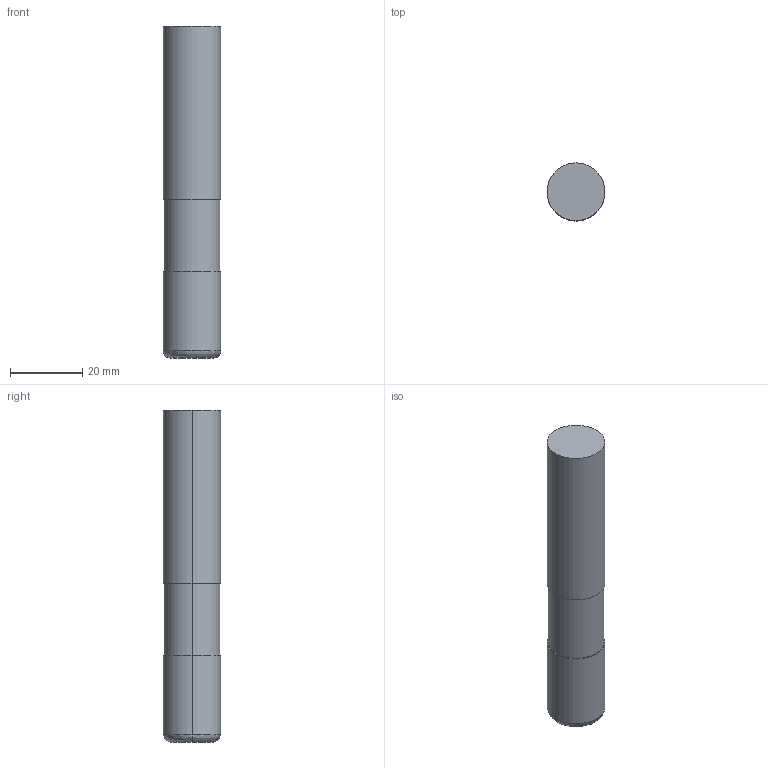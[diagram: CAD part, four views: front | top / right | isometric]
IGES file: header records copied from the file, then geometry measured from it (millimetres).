
Start section: 3D InterOp IGES (v. 2020 1.0.1), Spatial Corp. Copyright (c) 1999-2017.
Global section: file name: WZF17576_16_2.igs; native system: Spatial Corp.; preprocessor: 3D InterOp GENERIC/IGES 3.0; author: Noname; organization: Noname; date: 20201007.092829; units: metre
Bounding box: 16 x 16 x 92 mm (x, y, z)
Surface area: 4974.9 mm2 (no closed solid volume)
Topology: 0 solids, 0 shells, 12 faces, 44 edges, 44 vertices
Faces by surface type: revolution 8, extrusion 4
